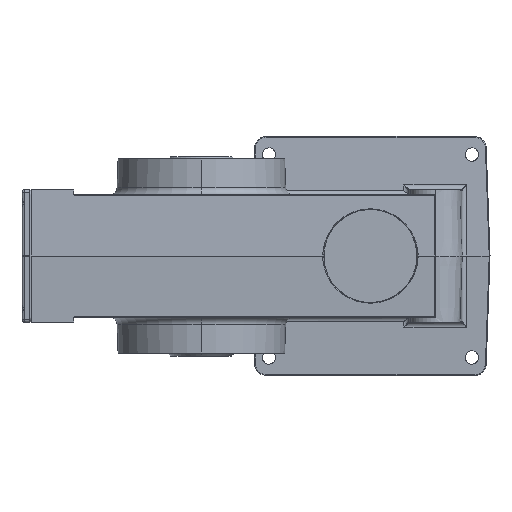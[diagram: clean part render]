
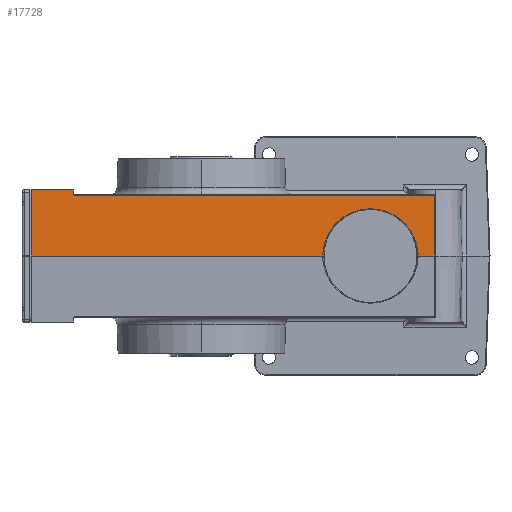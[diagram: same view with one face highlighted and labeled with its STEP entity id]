
A CAD part, left-side view. The second image highlights one B-rep face of the part: STEP entity #17728.
In plain terms, the highlighted planar face has unit normal (-0.999, 0, 0.035).
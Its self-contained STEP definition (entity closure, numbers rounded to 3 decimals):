
#734 = CARTESIAN_POINT ( 'NONE',  ( -64.38, -63.6, 17.754 ) ) ;
#947 = EDGE_CURVE ( 'NONE', #4187, #44444, #25366, .T. ) ;
#1098 = CARTESIAN_POINT ( 'NONE',  ( -65., 0., 0. ) ) ;
#1126 = LINE ( 'NONE', #31438, #21681 ) ;
#2045 = LINE ( 'NONE', #1098, #5921 ) ;
#2362 = EDGE_CURVE ( 'NONE', #20248, #25634, #52924, .T. ) ;
#2683 = CARTESIAN_POINT ( 'NONE',  ( -64.2, 48.017, 22.903 ) ) ;
#2805 = CARTESIAN_POINT ( 'NONE',  ( -64.193, 48.103, 23.097 ) ) ;
#2852 = DIRECTION ( 'NONE',  ( -0.999, 0., 0.035 ) ) ;
#3273 = AXIS2_PLACEMENT_3D ( 'NONE', #8551, #2852, #22392 ) ;
#3649 = EDGE_CURVE ( 'NONE', #17517, #54357, #2045, .T. ) ;
#3741 = EDGE_CURVE ( 'NONE', #44444, #24484, #51498, .T. ) ;
#4187 = VERTEX_POINT ( 'NONE', #2805 ) ;
#4491 =( BOUNDED_CURVE ( )  B_SPLINE_CURVE ( 3, ( #9632, #48587, #4859, #24419 ),
 .UNSPECIFIED., .F., .F. ) 
 B_SPLINE_CURVE_WITH_KNOTS ( ( 4, 4 ),
 ( 1.584, 3.142 ),
 .UNSPECIFIED. ) 
 CURVE ( )  GEOMETRIC_REPRESENTATION_ITEM ( )  RATIONAL_B_SPLINE_CURVE ( ( 1., 0.808, 0.808, 1. ) ) 
 REPRESENTATION_ITEM ( '' )  );
#4859 = CARTESIAN_POINT ( 'NONE',  ( -64.38, -53.173, 17.754 ) ) ;
#5477 = VECTOR ( 'NONE', #6450, 1000. ) ;
#5921 = VECTOR ( 'NONE', #21875, 1000. ) ;
#5949 = VERTEX_POINT ( 'NONE', #734 ) ;
#6450 = DIRECTION ( 'NONE',  ( 0., 1., 0. ) ) ;
#8279 = EDGE_CURVE ( 'NONE', #4187, #33143, #57785, .T. ) ;
#8551 = CARTESIAN_POINT ( 'NONE',  ( -65., 0., 0. ) ) ;
#8691 = ORIENTED_EDGE ( 'NONE', *, *, #15759, .T. ) ;
#9632 = CARTESIAN_POINT ( 'NONE',  ( -65., -45.621, 0. ) ) ;
#10160 = VECTOR ( 'NONE', #42749, 1000. ) ;
#10839 = CARTESIAN_POINT ( 'NONE',  ( -64.13, 64., 24.903 ) ) ;
#10843 = FACE_OUTER_BOUND ( 'NONE', #11485, .T. ) ;
#11314 = CARTESIAN_POINT ( 'NONE',  ( -65., -87.9, 0. ) ) ;
#11485 = EDGE_LOOP ( 'NONE', ( #49567, #19594, #58535, #13875, #8691, #28494, #42246, #31735, #28194, #23754 ) ) ;
#13403 = EDGE_CURVE ( 'NONE', #20248, #5949, #4491, .T. ) ;
#13875 = ORIENTED_EDGE ( 'NONE', *, *, #3649, .F. ) ;
#14642 = CARTESIAN_POINT ( 'NONE',  ( -65., 64., 0. ) ) ;
#14864 = CARTESIAN_POINT ( 'NONE',  ( -65., -81.579, 0. ) ) ;
#15759 = EDGE_CURVE ( 'NONE', #17517, #30441, #1126, .T. ) ;
#16488 = CARTESIAN_POINT ( 'NONE',  ( -64.2, -87.9, 22.903 ) ) ;
#17405 = CARTESIAN_POINT ( 'NONE',  ( -64.2, 47.903, 22.903 ) ) ;
#17517 = VERTEX_POINT ( 'NONE', #11314 ) ;
#17728 = ADVANCED_FACE ( 'NONE', ( #10843 ), #49790, .T. ) ;
#18553 = CARTESIAN_POINT ( 'NONE',  ( -65., 64., 0. ) ) ;
#19594 = ORIENTED_EDGE ( 'NONE', *, *, #13403, .T. ) ;
#20248 = VERTEX_POINT ( 'NONE', #37825 ) ;
#21023 = CARTESIAN_POINT ( 'NONE',  ( -64.636, -81.447, 10.427 ) ) ;
#21681 = VECTOR ( 'NONE', #45773, 1000. ) ;
#21875 = DIRECTION ( 'NONE',  ( 0., 1., 0. ) ) ;
#22193 = CARTESIAN_POINT ( 'NONE',  ( -64.13, 64., 24.903 ) ) ;
#22392 = DIRECTION ( 'NONE',  ( 0.035, 0., 0.999 ) ) ;
#22445 = CARTESIAN_POINT ( 'NONE',  ( -64.2, 48., 22.903 ) ) ;
#23754 = ORIENTED_EDGE ( 'NONE', *, *, #61088, .T. ) ;
#23984 = DIRECTION ( 'NONE',  ( -0.035, 0., -0.999 ) ) ;
#24419 = CARTESIAN_POINT ( 'NONE',  ( -64.38, -63.6, 17.754 ) ) ;
#24484 = VERTEX_POINT ( 'NONE', #10839 ) ;
#25366 = LINE ( 'NONE', #34901, #55057 ) ;
#25634 = VERTEX_POINT ( 'NONE', #14642 ) ;
#28194 = ORIENTED_EDGE ( 'NONE', *, *, #3741, .T. ) ;
#28494 = ORIENTED_EDGE ( 'NONE', *, *, #56124, .T. ) ;
#29027 = LINE ( 'NONE', #18553, #57552 ) ;
#30096 = DIRECTION ( 'NONE',  ( 0.035, 0.035, 0.999 ) ) ;
#30441 = VERTEX_POINT ( 'NONE', #16488 ) ;
#31438 = CARTESIAN_POINT ( 'NONE',  ( -65., -87.9, 0. ) ) ;
#31735 = ORIENTED_EDGE ( 'NONE', *, *, #947, .T. ) ;
#33143 = VERTEX_POINT ( 'NONE', #58852 ) ;
#34427 = EDGE_CURVE ( 'NONE', #5949, #54357, #56298, .T. ) ;
#34901 = CARTESIAN_POINT ( 'NONE',  ( -65.058, 47.239, -1.648 ) ) ;
#35653 = CARTESIAN_POINT ( 'NONE',  ( -64.38, -63.6, 17.754 ) ) ;
#37825 = CARTESIAN_POINT ( 'NONE',  ( -65., -45.621, 0. ) ) ;
#38607 = CARTESIAN_POINT ( 'NONE',  ( -65., 0., 0. ) ) ;
#42246 = ORIENTED_EDGE ( 'NONE', *, *, #8279, .F. ) ;
#42290 = CARTESIAN_POINT ( 'NONE',  ( -64.193, 48.103, 23.097 ) ) ;
#42749 = DIRECTION ( 'NONE',  ( 0., 1., 0. ) ) ;
#44444 = VERTEX_POINT ( 'NONE', #55940 ) ;
#45773 = DIRECTION ( 'NONE',  ( 0.035, 0., 0.999 ) ) ;
#48587 = CARTESIAN_POINT ( 'NONE',  ( -64.636, -45.753, 10.427 ) ) ;
#49567 = ORIENTED_EDGE ( 'NONE', *, *, #2362, .F. ) ;
#49790 = PLANE ( 'NONE',  #3273 ) ;
#50488 = LINE ( 'NONE', #22445, #5477 ) ;
#51498 = LINE ( 'NONE', #22193, #63017 ) ;
#52924 = LINE ( 'NONE', #38607, #10160 ) ;
#54357 = VERTEX_POINT ( 'NONE', #14864 ) ;
#54463 = CARTESIAN_POINT ( 'NONE',  ( -65., -81.579, 0. ) ) ;
#55057 = VECTOR ( 'NONE', #30096, 1000. ) ;
#55940 = CARTESIAN_POINT ( 'NONE',  ( -64.13, 48.166, 24.903 ) ) ;
#55957 = CARTESIAN_POINT ( 'NONE',  ( -64.197, 48.099, 22.983 ) ) ;
#56124 = EDGE_CURVE ( 'NONE', #30441, #33143, #50488, .T. ) ;
#56298 =( BOUNDED_CURVE ( )  B_SPLINE_CURVE ( 3, ( #35653, #59238, #21023, #54463 ),
 .UNSPECIFIED., .F., .F. ) 
 B_SPLINE_CURVE_WITH_KNOTS ( ( 4, 4 ),
 ( 3.142, 4.7 ),
 .UNSPECIFIED. ) 
 CURVE ( )  GEOMETRIC_REPRESENTATION_ITEM ( )  RATIONAL_B_SPLINE_CURVE ( ( 1., 0.808, 0.808, 1. ) ) 
 REPRESENTATION_ITEM ( '' )  );
#56546 = DIRECTION ( 'NONE',  ( 0., 1., 0. ) ) ;
#57552 = VECTOR ( 'NONE', #23984, 1000. ) ;
#57785 =( BOUNDED_CURVE ( )  B_SPLINE_CURVE ( 3, ( #42290, #55957, #2683, #17405 ),
 .UNSPECIFIED., .F., .F. ) 
 B_SPLINE_CURVE_WITH_KNOTS ( ( 4, 4 ),
 ( 1.606, 3.142 ),
 .UNSPECIFIED. ) 
 CURVE ( )  GEOMETRIC_REPRESENTATION_ITEM ( )  RATIONAL_B_SPLINE_CURVE ( ( 1., 0.813, 0.813, 1. ) ) 
 REPRESENTATION_ITEM ( '' )  );
#58535 = ORIENTED_EDGE ( 'NONE', *, *, #34427, .T. ) ;
#58852 = CARTESIAN_POINT ( 'NONE',  ( -64.2, 47.903, 22.903 ) ) ;
#59238 = CARTESIAN_POINT ( 'NONE',  ( -64.38, -74.027, 17.754 ) ) ;
#61088 = EDGE_CURVE ( 'NONE', #24484, #25634, #29027, .T. ) ;
#63017 = VECTOR ( 'NONE', #56546, 1000. ) ;
